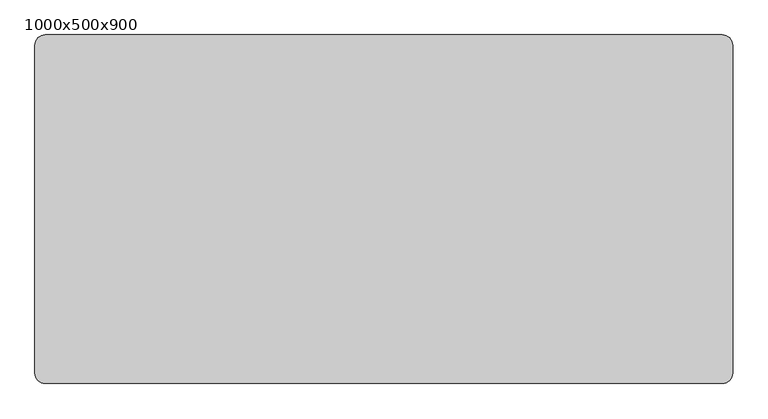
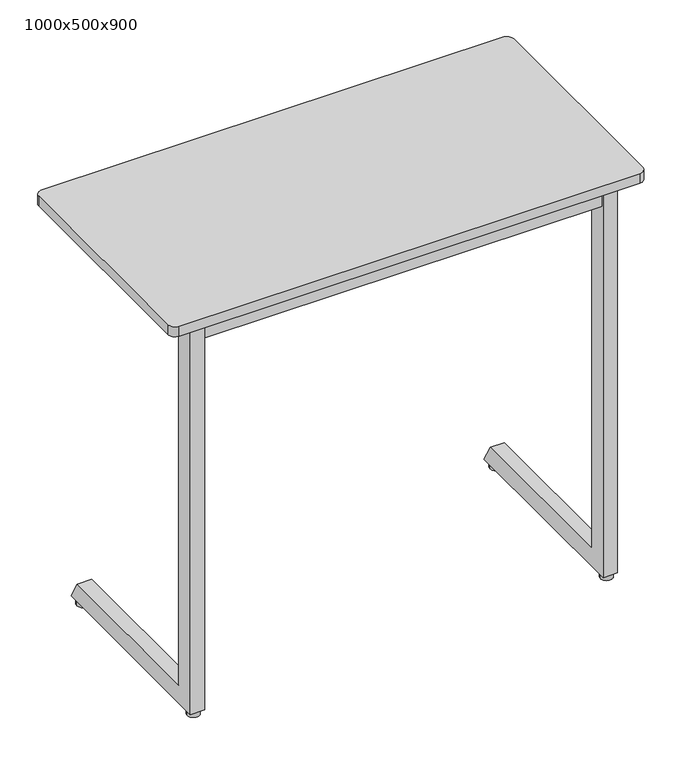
"""IFC4 building model written with IfcOpenShell, lengths in millimetres: furniture geometry, Trivia Light : 1000x500x900."""

from ifc_helpers import new_model, si_unit, point, frame, frame_2d, origin, origin_with_axes, place, context, project, spatial, polyline, circle_curve, trimmed, segment, composite_curve, outline, extrude, source, transform, mapped, element, save


def furniture_1000x500x900_d3f5659b(model_context):
    return source(origin(), model_context, "Body", "SweptSolid", [
        extrude(outline(polyline([(434.5100173, 878.0), (419.9996059, 846.4981092), (54.0, 846.4977978), (54.0, 878.0), (434.5100173, 878.0)])), frame((-364.7535601, 0.0, 0.0), z_axis=(1.0, 0.0, 0.0), x_axis=(0.0, 1.0, 0.0)), (0.0, 0.0, 1.0), 30.0),
        extrude(outline(polyline([(873.7997437, -367.7502136), (850.730957, -367.7502136), (850.730957, -399.8065042), (855.0394353, -411.6439509), (852.2203574, -412.6700113), (847.730957, -400.3354852), (847.730957, -364.7502136), (873.7997437, -364.7502136), (873.7997437, -367.7502136)])), frame((0.0, 215.0, 0.0), z_axis=(0.0, 1.0, 0.0), x_axis=(0.0, 0.0, 1.0)), (0.0, 0.0, 1.0), 30.0),
        extrude(outline(polyline([(873.7997437, 367.7535601), (873.7997437, 364.7535601), (847.730957, 364.7535601), (847.730957, 400.3388316), (852.2203574, 412.6733577), (855.0394353, 411.6472973), (850.730957, 399.8098507), (850.730957, 367.7535601), (873.7997437, 367.7535601)])), frame((0.0, 215.0, 0.0), z_axis=(0.0, 1.0, 0.0), x_axis=(0.0, 0.0, 1.0)), (0.0, 0.0, 1.0), 30.0),
        extrude(outline(composite_curve([segment(trimmed(circle_curve(frame_2d((-435.0, 35.0)), 13.0), [point((-448.0, 35.0))], [point((-422.0, 35.0))], False, "CARTESIAN"), True, "CONTINUOUS"), segment(trimmed(circle_curve(frame_2d((-435.0, 35.0)), 13.0), [point((-422.0, 35.0))], [point((-448.0, 35.0))], False, "CARTESIAN"), True, "CONTINUOUS")], self_intersect=False)), origin_with_axes(), (0.0, 0.0, 1.0), 13.0905762),
        extrude(outline(composite_curve([segment(trimmed(circle_curve(frame_2d((435.0, 35.0)), 13.0), [point((422.0, 35.0))], [point((448.0, 35.0))], False, "CARTESIAN"), True, "CONTINUOUS"), segment(trimmed(circle_curve(frame_2d((435.0, 35.0)), 13.0), [point((448.0, 35.0))], [point((422.0, 35.0))], False, "CARTESIAN"), True, "CONTINUOUS")], self_intersect=False)), origin_with_axes(), (0.0, 0.0, 1.0), 13.0905762),
        extrude(outline(composite_curve([segment(trimmed(circle_curve(frame_2d((435.0, 437.5)), 13.0), [point((422.0, 437.5))], [point((448.0, 437.5))], False, "CARTESIAN"), True, "CONTINUOUS"), segment(trimmed(circle_curve(frame_2d((435.0, 437.5)), 13.0), [point((448.0, 437.5))], [point((422.0, 437.5))], False, "CARTESIAN"), True, "CONTINUOUS")], self_intersect=False)), origin_with_axes(), (0.0, 0.0, 1.0), 13.0905762),
        extrude(outline(composite_curve([segment(trimmed(circle_curve(frame_2d((-435.0, 437.5)), 13.0), [point((-448.0, 437.5))], [point((-422.0, 437.5))], False, "CARTESIAN"), True, "CONTINUOUS"), segment(trimmed(circle_curve(frame_2d((-435.0, 437.5)), 13.0), [point((-422.0, 437.5))], [point((-448.0, 437.5))], False, "CARTESIAN"), True, "CONTINUOUS")], self_intersect=False)), origin_with_axes(), (0.0, 0.0, 1.0), 13.0905762),
        extrude(outline(polyline([(434.5100173, 878.0), (419.9996059, 846.4981092), (54.0, 846.4977978), (54.0, 878.0), (434.5100173, 878.0)])), frame((334.7535601, 0.0, 0.0), z_axis=(1.0, 0.0, 0.0), x_axis=(0.0, 1.0, 0.0)), (0.0, 0.0, 1.0), 30.0),
        extrude(outline(composite_curve([segment(trimmed(circle_curve(frame_2d((485.0, 485.0)), 15.0), [point((485.0, 500.0))], [point((500.0, 485.0))], False, "CARTESIAN"), True, "CONTINUOUS"), segment(polyline([(500.0, 485.0), (500.0, 15.0)]), True, "CONTINUOUS"), segment(trimmed(circle_curve(frame_2d((485.0, 15.0)), 15.0), [point((500.0, 15.0))], [point((485.0, 0.0))], False, "CARTESIAN"), True, "CONTINUOUS"), segment(polyline([(485.0, 0.0), (-485.0, 0.0)]), True, "CONTINUOUS"), segment(trimmed(circle_curve(frame_2d((-485.0, 15.0)), 15.0), [point((-485.0, 0.0))], [point((-500.0, 15.0))], False, "CARTESIAN"), True, "CONTINUOUS"), segment(polyline([(-500.0, 15.0), (-500.0, 485.0)]), True, "CONTINUOUS"), segment(trimmed(circle_curve(frame_2d((-485.0, 485.0)), 15.0), [point((-500.0, 485.0))], [point((-485.0, 500.0))], False, "CARTESIAN"), True, "CONTINUOUS"), segment(polyline([(-485.0, 500.0), (485.0, 500.0)]), True, "CONTINUOUS")], self_intersect=False)), frame((0.0, 0.0, 878.0), z_axis=(0.0, 0.0, 1.0), x_axis=(1.0, 0.0, 0.0)), (0.0, 0.0, 1.0), 22.0),
        extrude(outline(polyline([(419.7534307, 54.0), (419.7534307, 24.0), (-419.7534307, 24.0), (-419.7534307, 54.0), (419.7534307, 54.0)])), frame((0.0, 0.0, 836.0), z_axis=(0.0, 0.0, 1.0), x_axis=(1.0, 0.0, 0.0)), (0.0, 0.0, 1.0), 42.0),
        extrude(outline(polyline([(62.0, 51.5905762), (432.1448423, 51.5905762), (454.8944033, 11.5905762), (20.0, 11.5905762), (20.0, 878.0), (62.0, 878.0), (62.0, 51.5905762)])), frame((-449.7535601, 0.0, 0.0), z_axis=(1.0, 0.0, 0.0), x_axis=(0.0, 1.0, 0.0)), (0.0, 0.0, 1.0), 30.0001294),
        extrude(outline(polyline([(62.0, 51.5905762), (432.1448423, 51.5905762), (454.8944033, 11.5905762), (20.0, 11.5905762), (20.0, 878.0), (62.0, 878.0), (62.0, 51.5905762)])), frame((419.7534307, 0.0, 0.0), z_axis=(1.0, 0.0, 0.0), x_axis=(0.0, 1.0, 0.0)), (0.0, 0.0, 1.0), 30.0001294),
    ])


if __name__ == "__main__":
    model = new_model("IFC4")
    model_context = context("Model", 3, world=origin())
    ifc_project = project(units=[si_unit("LENGTHUNIT", "METRE", prefix="MILLI")], contexts=[model_context])
    site = spatial("IfcSite", under=ifc_project)
    building = spatial("IfcBuilding", under=site)
    placement = place(None, origin())
    furniture_1000x500x900_shape = furniture_1000x500x900_d3f5659b(model_context)
    element("IfcFurniture", 1, ObjectType="Trivia Light : 1000x500x900", at=placement, inside=building, context=model_context, shape_type="MappedRepresentation", body=[
        mapped(furniture_1000x500x900_shape, transform((0.0, 0.0, 0.0), x_axis=(1.0, 0.0, 0.0), y_axis=(0.0, 1.0, 0.0), z_axis=(0.0, 0.0, 1.0))),
    ])
    save(model, "model.ifc")
